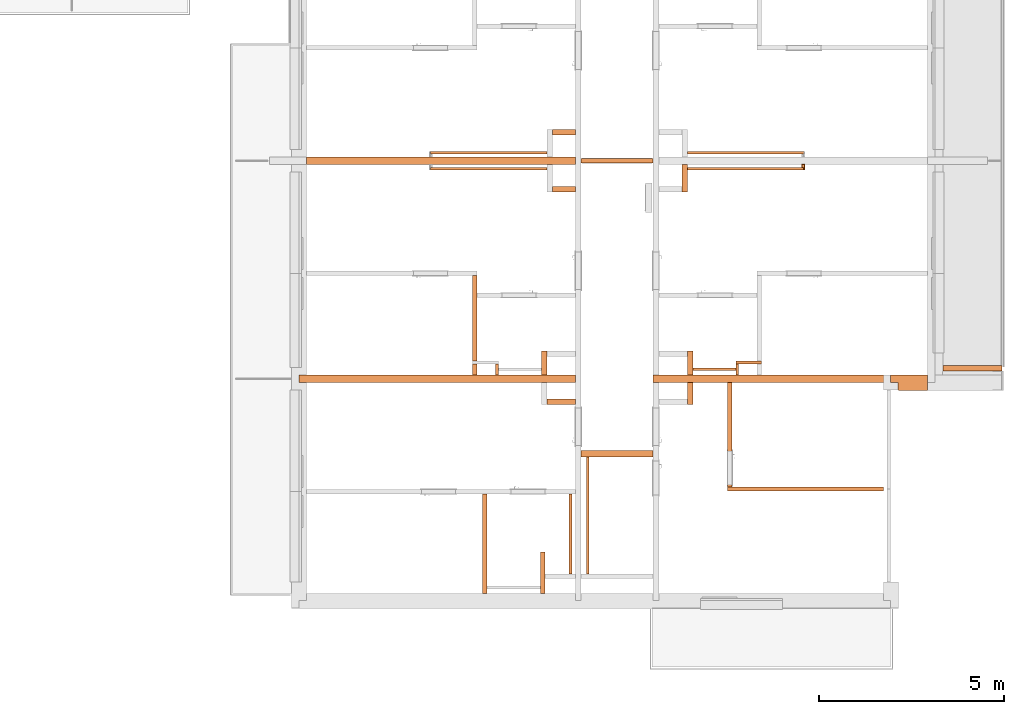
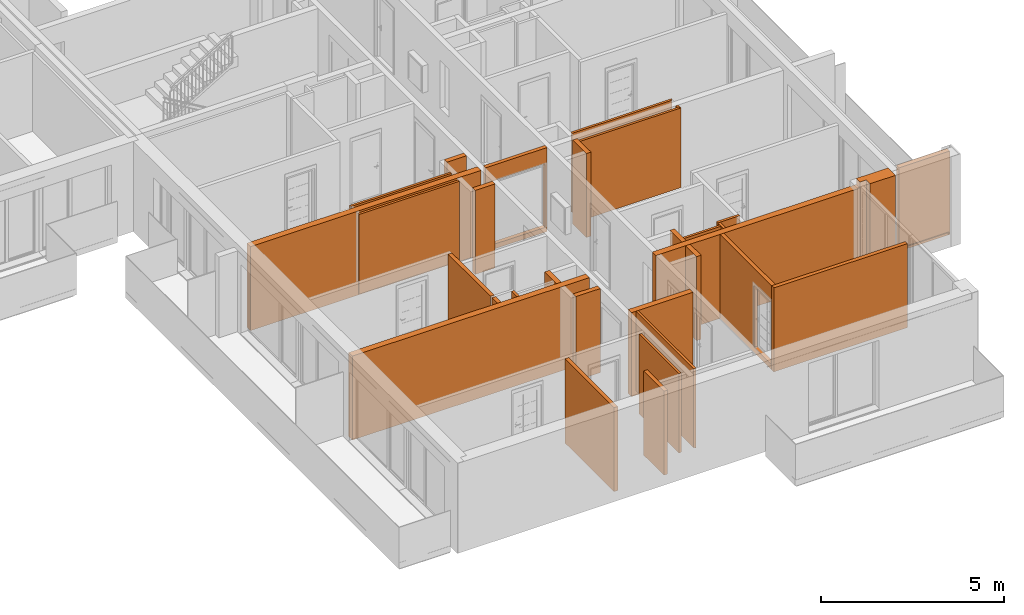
# One storey, part 64 of 66: 30 proxies, 2 openings.
"""IFC2X3 building model written with IfcOpenShell, lengths in millimetres."""

from ifc_helpers import new_model, entity, si_unit, converted_unit, derived_unit, money_unit, direction, frame, origin_with_axes, origin_2d_with_axis, place, context, subcontext, project, spatial, rectangle, extrude, faceted_brep, material, material_list, type_object, element, save


model = new_model("IFC2X3")

# Units and contexts
model_context = context("Model", 3, precision=0.01, world=origin_with_axes(), true_north=direction((0.34421633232, 0.938890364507)))
body_context = subcontext(model_context, "Body", "Model", "MODEL_VIEW")
ifc_project = project(units=[si_unit("LENGTHUNIT", "METRE", prefix="MILLI"), si_unit("AREAUNIT", "SQUARE_METRE"), si_unit("VOLUMEUNIT", "CUBIC_METRE"), converted_unit("PLANEANGLEUNIT", "DEGREE", entity("IfcPlaneAngleMeasure", 0.0174532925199), si_unit("PLANEANGLEUNIT", "RADIAN"), dimensions=[0, 0, 0, 0, 0, 0, 0]), si_unit("SOLIDANGLEUNIT", "STERADIAN"), money_unit("USD"), converted_unit("TIMEUNIT", "Year", entity("IfcTimeMeasure", 31556926.0), si_unit("TIMEUNIT", "SECOND"), dimensions=[0, 0, 1, 0, 0, 0, 0]), si_unit("MASSUNIT", "GRAM", prefix="KILO"), si_unit("THERMODYNAMICTEMPERATUREUNIT", "DEGREE_CELSIUS"), si_unit("LUMINOUSINTENSITYUNIT", "LUMEN"), si_unit("ENERGYUNIT", "JOULE", prefix="MEGA"), derived_unit("THERMALCONDUCTANCEUNIT", [(si_unit("POWERUNIT", "WATT"), 1), (si_unit("LENGTHUNIT", "METRE"), -1), (si_unit("THERMODYNAMICTEMPERATUREUNIT", "KELVIN"), -1)]), derived_unit("SPECIFICHEATCAPACITYUNIT", [(si_unit("ENERGYUNIT", "JOULE"), 1), (si_unit("MASSUNIT", "GRAM", prefix="KILO"), -1), (si_unit("THERMODYNAMICTEMPERATUREUNIT", "KELVIN"), -1)]), derived_unit("MASSDENSITYUNIT", [(si_unit("MASSUNIT", "GRAM", prefix="KILO"), 1), (si_unit("VOLUMEUNIT", "CUBIC_METRE"), -1)])], contexts=[model_context])

# Site, building, storey
site_placement = place(None, origin_with_axes())
site = spatial("IfcSite", under=ifc_project, at=site_placement, Name="USTRONIE MORSKIE", CompositionType="ELEMENT")
building_placement = place(site_placement, origin_with_axes())
building = spatial("IfcBuilding", under=site, at=building_placement, Name="Budynek", CompositionType="ELEMENT")
storey_placement = place(building_placement, frame((0.0, 0.0, 10000.0), z_axis=(0.0, 0.0, 1.0), x_axis=(1.0, 0.0, 0.0)))
storey = spatial("IfcBuildingStorey", under=building, at=storey_placement, Name="PIĘTRO 3", CompositionType="ELEMENT", Elevation=10000.0)

# Proxy
ifc_material_1 = material(Name="Bloczki silikatowe")
building_element_proxy_type_1 = type_object("IfcBuildingElementProxyType", Name="Bloczki silikatowe 120", PredefinedType="NOTDEFINED")
proxy_1_placement = place(storey_placement, frame((413217.920919, 715101.199036, -160.0), z_axis=(0.0, 0.0, 1.0), x_axis=(0.0, 1.0, 0.0)))
element("IfcBuildingElementProxy", 1, at=proxy_1_placement, inside=storey, type_object=building_element_proxy_type_1, material=ifc_material_1, Name="SW-04", context=body_context, shape_type="Brep", body=[
    faceted_brep([(2790.01935038, 60.0, 0.0), (2790.01935038, -60.0, 0.0), (480.01915523, -60.0, 0.0), (480.01915523, 60.0, 0.0), (2790.01935038, 60.0, 2800.0), (2790.01935038, -60.0, 2800.0), (480.01915523, -60.0, 2800.0), (480.01915523, 60.0, 2800.0)], [[[0, 1, 2, 3]], [[1, 0, 4, 5]], [[1, 5, 6, 2]], [[7, 3, 2, 6]], [[4, 0, 3, 7]], [[5, 4, 7, 6]]]),
    faceted_brep([(400.01915523, 60.0, 0.0), (400.01915523, -60.0, 0.0), (99.9999880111, -60.0, 0.0), (99.9999874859, 60.0, 0.0), (400.01915523, 60.0, 2800.0), (400.01915523, -60.0, 2800.0), (99.9999880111, -60.0, 2800.0), (99.9999874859, 60.0, 2800.0)], [[[0, 1, 2, 3]], [[1, 0, 4, 5]], [[1, 5, 6, 2]], [[7, 3, 2, 6]], [[4, 0, 3, 7]], [[5, 4, 7, 6]]]),
])

# Proxy, opening
proxy_2_placement = place(storey_placement, frame((416017.920919, 721001.199036, -160.0), z_axis=(0.0, 0.0, 1.0), x_axis=(1.0, 0.0, 0.0)))
proxy_2 = element("IfcBuildingElementProxy", 2, at=proxy_2_placement, inside=storey, type_object=building_element_proxy_type_1, material=ifc_material_1, Name="SW-04", context=body_context, shape_type="Brep", body=[
    faceted_brep([(2020.0, 59.9999999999, 0.0), (80.0, 59.9999999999, 0.0), (80.0, 59.9999999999, 2800.0), (2020.0, 59.9999999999, 2800.0), (2020.0, -59.9999999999, 0.0), (80.0, -59.9999999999, 0.0), (80.0, -59.9999999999, 2800.0), (2020.0, -59.9999999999, 2800.0)], [[[0, 1, 2, 3]], [[4, 5, 1, 0]], [[5, 6, 2, 1]], [[3, 2, 6, 7]], [[3, 7, 4, 0]], [[7, 6, 5, 4]]]),
])
opening_1_placement = place(proxy_2_placement, frame((1050.0, 0.0, 160.0), z_axis=(0.0, 0.0, 1.0), x_axis=(1.0, 0.0, 0.0)))
element("IfcOpeningElement", 3, at=opening_1_placement, cuts=proxy_2, Name="Dw.5s", context=body_context, shape_type="SweptSolid", body=[
    extrude(rectangle(XDim=1820.0, YDim=2120.0, at=origin_2d_with_axis()), frame((0.0, -120.0, 1060.0), z_axis=(0.0, 1.0, 0.0), x_axis=(1.0, 0.0, 0.0)), (0.0, 0.0, 1.0), 360.0),
    extrude(rectangle(XDim=1894.0, YDim=2157.0, at=origin_2d_with_axis()), frame((0.0, -59.9999999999, 1078.5), z_axis=(0.0, 1.0, 0.0), x_axis=(1.0, 0.0, 0.0)), (0.0, 0.0, -1.0), 120.0),
    extrude(rectangle(XDim=1894.0, YDim=2157.0, at=origin_2d_with_axis()), frame((0.0, 60.0000000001, 1078.5), z_axis=(0.0, -1.0, 0.0), x_axis=(1.0, 0.0, 0.0)), (0.0, 0.0, -1.0), 120.0),
])

proxy_3_placement = place(storey_placement, frame((420117.920919, 712121.199036, -160.0), z_axis=(0.0, 0.0, 1.0), x_axis=(0.0, 1.0, 0.0)))
proxy_3 = element("IfcBuildingElementProxy", 4, at=proxy_3_placement, inside=storey, type_object=building_element_proxy_type_1, material=ifc_material_1, Name="SW-04", context=body_context, shape_type="Brep", body=[
    faceted_brep([(2880.0, -60.0, 2800.0), (2880.0, 60.0, 2800.0), (59.9999999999, 60.0, 2800.0), (59.9999999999, -60.0, 2800.0), (2880.0, -60.0, 0.0), (2880.0, 60.0, 0.0), (59.9999999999, 60.0, 0.0), (59.9999999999, -60.0, 0.0)], [[[0, 1, 2, 3]], [[1, 0, 4, 5]], [[1, 5, 6, 2]], [[7, 3, 2, 6]], [[4, 0, 3, 7]], [[5, 4, 7, 6]]]),
])
opening_2_placement = place(proxy_3_placement, frame((570.0, 0.0, 160.0), z_axis=(0.0, 0.0, 1.0), x_axis=(1.0, 0.0, 0.0)))
element("IfcOpeningElement", 5, at=opening_2_placement, cuts=proxy_3, Name="Dw.3", context=body_context, shape_type="SweptSolid", body=[
    extrude(rectangle(XDim=920.0, YDim=2070.0, at=origin_2d_with_axis()), frame((0.0, 120.0, 1035.0), z_axis=(0.0, -1.0, 0.0), x_axis=(-1.0, 0.0, 0.0)), (0.0, 0.0, 1.0), 360.0),
    extrude(rectangle(XDim=994.0, YDim=2177.0, at=origin_2d_with_axis()), frame((0.0, 60.0, 1088.5), z_axis=(0.0, -1.0, 0.0), x_axis=(-1.0, 0.0, 0.0)), (0.0, 0.0, -1.0), 120.0),
    extrude(rectangle(XDim=994.0, YDim=2177.0, at=origin_2d_with_axis()), frame((0.0, -60.0, 1088.5), z_axis=(0.0, 1.0, 0.0), x_axis=(-1.0, 0.0, 0.0)), (0.0, 0.0, -1.0), 120.0),
])

# Proxies
proxy_4_placement = place(storey_placement, frame((424367.920919, 712121.199036, -160.0), z_axis=(0.0, 0.0, 1.0), x_axis=(-1.0, 0.0, 0.0)))
element("IfcBuildingElementProxy", 6, at=proxy_4_placement, inside=storey, type_object=building_element_proxy_type_1, material=ifc_material_1, Name="SW-04", context=body_context, shape_type="Brep", body=[
    faceted_brep([(4310.0, -59.9999999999, 2800.0), (4310.0, 59.9999999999, 2800.0), (100.0, 59.9999999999, 2800.0), (100.0, -59.9999999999, 2800.0), (4310.0, -59.9999999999, 0.0), (4310.0, 59.9999999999, 0.0), (100.0, 59.9999999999, 0.0), (100.0, -59.9999999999, 0.0)], [[[0, 1, 2, 3]], [[1, 0, 4, 5]], [[1, 5, 6, 2]], [[7, 3, 2, 6]], [[4, 0, 3, 7]], [[5, 4, 7, 6]]]),
])
proxy_5_placement = place(storey_placement, frame((415117.920919, 710416.199036, -160.0), z_axis=(0.0, 0.0, 1.0), x_axis=(0.0, -1.0, 0.0)))
element("IfcBuildingElementProxy", 7, at=proxy_5_placement, inside=storey, type_object=building_element_proxy_type_1, material=ifc_material_1, Name="SW-04", context=body_context, shape_type="Brep", body=[
    faceted_brep([(1115.0, -120.0, 2800.0), (1115.0, 0.0, 2800.0), (0.0, 0.0, 2800.0), (0.0, -120.0, 2800.0), (1115.0, -120.0, 0.0), (1115.0, 0.0, 0.0), (0.0, 0.0, 0.0), (0.0, -120.0, 0.0)], [[[0, 1, 2, 3]], [[1, 0, 4, 5]], [[1, 5, 6, 2]], [[7, 3, 2, 6]], [[4, 0, 3, 7]], [[5, 4, 7, 6]]]),
])
proxy_6_placement = place(storey_placement, frame((413487.920919, 709201.199036, -160.0), z_axis=(0.0, 0.0, 1.0), x_axis=(0.0, 1.0, 0.0)))
element("IfcBuildingElementProxy", 8, at=proxy_6_placement, inside=storey, type_object=building_element_proxy_type_1, material=ifc_material_1, Name="SW-04", context=body_context, shape_type="Brep", body=[
    faceted_brep([(2790.01936646, 60.0, 0.0), (2790.01936646, -60.0, 0.0), (100.0, -60.0, 0.0), (100.0, 60.0, 0.0), (2790.01936646, 60.0, 2800.0), (2790.01936646, -60.0, 2800.0), (100.0, -60.0, 2800.0), (100.0, 60.0, 2800.0)], [[[0, 1, 2, 3]], [[1, 0, 4, 5]], [[1, 5, 6, 2]], [[7, 3, 2, 6]], [[4, 0, 3, 7]], [[5, 4, 7, 6]]]),
])
ifc_material_2 = material(Name="Beton konstrukcyjny B25")
ifc_material_3 = material(Name="Wełna ELEW")
ifc_material_4 = material(Name="Tynk zewnętrzny")
ifc_material_list_1 = material_list([ifc_material_2, ifc_material_3, ifc_material_4])
building_element_proxy_type_2 = type_object("IfcBuildingElementProxyType", Name="20+20 410", PredefinedType="NOTDEFINED")
proxy_7_placement = place(storey_placement, frame((424367.920919, 715101.199036, -160.0), z_axis=(0.0, 0.0, 1.0), x_axis=(1.0, 0.0, 0.0)))
element("IfcBuildingElementProxy", 9, at=proxy_7_placement, inside=storey, type_object=building_element_proxy_type_2, material=ifc_material_list_1, Name="SZ-01", context=body_context, shape_type="Brep", body=[
    faceted_brep([(100.0, 100.0, 0.0), (100.0, 100.0, 2800.0), (100.0, 100.0, 3000.0), (1100.0, 99.9999999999, 3000.0), (1100.0, 99.9999999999, 0.0), (100.0, -100.0, 2800.0), (100.0, -100.0, 0.0), (100.0, -100.0, 3000.0), (1100.0, -100.0, 3000.0), (1100.0, -100.0, 0.0)], [[[0, 1, 2, 3, 4]], [[5, 1, 0, 6]], [[1, 5, 7, 2]], [[2, 7, 8, 3]], [[4, 3, 8, 9]], [[6, 0, 4, 9]], [[5, 6, 9, 8, 7]]]),
    faceted_brep([(300.0, -100.0, 0.0), (300.0, -100.0, 2800.0), (300.0, -100.0, 3000.0), (1100.0, -100.0, 3000.0), (1100.0, -100.0, 0.0), (300.0, -300.0, 2800.0), (300.0, -300.0, 0.0), (300.0, -300.0, 3000.0), (1100.0, -300.0, 3000.0), (1100.0, -300.0, 0.0)], [[[0, 1, 2, 3, 4]], [[5, 1, 0, 6]], [[1, 5, 7, 2]], [[2, 7, 8, 3]], [[4, 3, 8, 9]], [[6, 0, 4, 9]], [[5, 6, 9, 8, 7]]]),
    faceted_brep([(310.0, -300.0, 0.0), (310.0, -300.0, 2800.0), (310.0, -300.0, 3000.0), (1100.0, -300.0, 3000.0), (1100.0, -300.0, 0.0), (310.0, -310.0, 2800.0), (310.0, -310.0, 0.0), (310.0, -310.0, 3000.0), (1100.0, -310.0, 3000.0), (1100.0, -310.0, 0.0)], [[[0, 1, 2, 3, 4]], [[5, 1, 0, 6]], [[1, 5, 7, 2]], [[2, 7, 8, 3]], [[4, 3, 8, 9]], [[6, 0, 4, 9]], [[5, 6, 9, 8, 7]]]),
])
building_element_proxy_type_3 = type_object("IfcBuildingElementProxyType", Name="Bloczki silikatowe 180", PredefinedType="NOTDEFINED")
proxy_8_placement = place(storey_placement, frame((416017.920919, 713071.199036, -160.0), z_axis=(0.0, 0.0, 1.0), x_axis=(1.0, 0.0, 0.0)))
element("IfcBuildingElementProxy", 10, at=proxy_8_placement, inside=storey, type_object=building_element_proxy_type_3, material=ifc_material_1, Name="SW-02", context=body_context, shape_type="Brep", body=[
    faceted_brep([(2020.0, -90.0, 2800.0), (2020.0, 90.0, 2800.0), (80.0, 90.0, 2800.0), (80.0, -90.0, 2800.0), (2020.0, -90.0, 0.0), (2020.0, 90.0, 0.0), (80.0, 90.0, 0.0), (80.0, -90.0, 0.0)], [[[0, 1, 2, 3]], [[1, 0, 4, 5]], [[1, 5, 6, 2]], [[7, 3, 2, 6]], [[4, 0, 3, 7]], [[5, 4, 7, 6]]]),
])
ifc_material_5 = material(Name="-Pustka powietrzna")
ifc_material_6 = material(Name="Płyta GK")
ifc_material_list_2 = material_list([ifc_material_5, ifc_material_6, ifc_material_6])
building_element_proxy_type_4 = type_object("IfcBuildingElementProxyType", Name="330-SD GK 2-warstwy 75", PredefinedType="NOTDEFINED")
proxy_9_placement = place(storey_placement, frame((418817.920919, 720771.199036, -180.0), z_axis=(0.0, 0.0, 1.0), x_axis=(1.0, 0.0, 0.0)))
element("IfcBuildingElementProxy", 11, at=proxy_9_placement, inside=storey, type_object=building_element_proxy_type_4, material=ifc_material_list_2, Name="Ściana-009", context=body_context, shape_type="Brep", body=[
    faceted_brep([(3300.0, 0.0, 180.0), (3300.0, 50.0, 180.0), (3300.0, 50.0, 2820.0), (3300.0, 0.0, 2820.0), (150.0, 50.0, 180.0), (150.0, 0.0, 180.0), (150.0, 50.0, 2820.0), (150.0, 0.0, 2820.0)], [[[0, 1, 2, 3]], [[4, 1, 0, 5]], [[1, 4, 6, 2]], [[2, 6, 7, 3]], [[5, 0, 3, 7]], [[4, 5, 7, 6]]]),
    faceted_brep([(3312.5, -12.5, 165.0), (3312.5, 0.0, 165.0), (3312.5, 0.0, 2820.0), (3312.5, -12.5, 2820.0), (150.0, 0.0, 165.0), (150.0, -12.5, 165.0), (150.0, 0.0, 2820.0), (150.0, -12.5, 2820.0)], [[[0, 1, 2, 3]], [[4, 1, 0, 5]], [[1, 4, 6, 2]], [[2, 6, 7, 3]], [[5, 0, 3, 7]], [[4, 5, 7, 6]]]),
    faceted_brep([(3325.0, -25.0, 165.0), (3325.0, -12.5, 165.0), (3325.0, -12.5, 2820.0), (3325.0, -25.0, 2820.0), (150.0, -12.5, 165.0), (150.0, -25.0, 165.0), (150.0, -12.5, 2820.0), (150.0, -25.0, 2820.0)], [[[0, 1, 2, 3]], [[4, 1, 0, 5]], [[1, 4, 6, 2]], [[2, 6, 7, 3]], [[5, 0, 3, 7]], [[4, 5, 7, 6]]]),
])
ifc_material_list_3 = material_list([ifc_material_6, ifc_material_6, ifc_material_5])
proxy_10_placement = place(storey_placement, frame((415317.920919, 720771.199036, -180.0), z_axis=(0.0, 0.0, 1.0), x_axis=(-1.0, 0.0, 0.0)))
element("IfcBuildingElementProxy", 12, at=proxy_10_placement, inside=storey, type_object=building_element_proxy_type_4, material=ifc_material_list_3, Name="Ściana-009", context=body_context, shape_type="Brep", body=[
    faceted_brep([(150.0, 25.0, 165.0), (150.0, 12.5, 165.0), (150.0, 12.5, 2820.0), (150.0, 25.0, 2820.0), (3325.0, 12.5, 165.0), (3325.0, 25.0, 165.0), (3325.0, 12.5, 2820.0), (3325.0, 25.0, 2820.0)], [[[0, 1, 2, 3]], [[4, 1, 0, 5]], [[1, 4, 6, 2]], [[7, 3, 2, 6]], [[5, 0, 3, 7]], [[4, 5, 7, 6]]]),
    faceted_brep([(150.0, 12.5, 165.0), (150.0, 0.0, 165.0), (150.0, 0.0, 2820.0), (150.0, 12.5, 2820.0), (3312.5, 0.0, 165.0), (3312.5, 12.5, 165.0), (3312.5, 0.0, 2820.0), (3312.5, 12.5, 2820.0)], [[[0, 1, 2, 3]], [[4, 1, 0, 5]], [[1, 4, 6, 2]], [[7, 3, 2, 6]], [[5, 0, 3, 7]], [[4, 5, 7, 6]]]),
    faceted_brep([(150.0, 0.0, 180.0), (150.0, -50.0, 180.0), (150.0, -50.0, 2820.0), (150.0, 0.0, 2820.0), (3300.0, -50.0, 180.0), (3300.0, 0.0, 180.0), (3300.0, -50.0, 2820.0), (3300.0, 0.0, 2820.0)], [[[0, 1, 2, 3]], [[4, 1, 0, 5]], [[1, 4, 6, 2]], [[7, 3, 2, 6]], [[5, 0, 3, 7]], [[4, 5, 7, 6]]]),
])
proxy_11_placement = place(storey_placement, frame((420317.920919, 715371.200737, -180.0), z_axis=(0.0, 0.0, 1.0), x_axis=(-1.0, 0.0, 0.0)))
element("IfcBuildingElementProxy", 13, at=proxy_11_placement, inside=storey, type_object=building_element_proxy_type_4, material=ifc_material_list_2, Name="Ściana-009", context=body_context, shape_type="Brep", body=[
    faceted_brep([(40.0, 50.0, 180.0), (40.0, 0.0, 180.0), (40.0, 0.0, 2820.0), (40.0, 50.0, 2820.0), (1199.99909883, 0.0, 180.0), (1199.99909883, 50.0, 180.0), (1199.99909883, 0.0, 2820.0), (1199.99909883, 50.0, 2820.0)], [[[0, 1, 2, 3]], [[4, 1, 0, 5]], [[1, 4, 6, 2]], [[2, 6, 7, 3]], [[5, 0, 3, 7]], [[4, 5, 7, 6]]]),
    faceted_brep([(40.0, 0.0, 165.0), (40.0, -12.5, 165.0), (40.0, -12.5, 2820.0), (40.0, 0.0, 2820.0), (1199.99909883, -12.5, 165.0), (1199.99909883, 0.0, 165.0), (1199.99909883, -12.5, 2820.0), (1199.99909883, 0.0, 2820.0)], [[[0, 1, 2, 3]], [[4, 1, 0, 5]], [[1, 4, 6, 2]], [[2, 6, 7, 3]], [[5, 0, 3, 7]], [[4, 5, 7, 6]]]),
    faceted_brep([(40.0, -12.5, 165.0), (40.0, -25.0, 165.0), (40.0, -25.0, 2820.0), (40.0, -12.5, 2820.0), (1199.99909883, -25.0, 165.0), (1199.99909883, -12.5, 165.0), (1199.99909883, -25.0, 2820.0), (1199.99909883, -12.5, 2820.0)], [[[0, 1, 2, 3]], [[4, 1, 0, 5]], [[1, 4, 6, 2]], [[2, 6, 7, 3]], [[5, 0, 3, 7]], [[4, 5, 7, 6]]]),
])
proxy_12_placement = place(storey_placement, frame((416262.920919, 713071.199036, -160.0), z_axis=(0.0, 0.0, 1.0), x_axis=(0.0, -1.0, 0.0)))
element("IfcBuildingElementProxy", 14, at=proxy_12_placement, inside=storey, type_object=building_element_proxy_type_4, material=ifc_material_list_3, Name="Ściana-009", context=body_context, shape_type="Brep", body=[
    faceted_brep([(3249.99999956, 50.0, 145.0), (90.0, 50.0, 145.0), (90.0, 50.0, 2800.0), (3249.99999956, 50.0, 2800.0), (90.0, 37.5, 145.0), (3249.99999956, 37.5, 145.0), (90.0, 37.5, 2800.0), (3249.99999956, 37.5, 2800.0)], [[[0, 1, 2, 3]], [[4, 1, 0, 5]], [[1, 4, 6, 2]], [[7, 3, 2, 6]], [[5, 0, 3, 7]], [[4, 5, 7, 6]]]),
    faceted_brep([(3249.99999956, 37.5, 145.0), (90.0, 37.5, 145.0), (90.0, 37.5, 2800.0), (3249.99999956, 37.5, 2800.0), (90.0, 25.0, 145.0), (3249.99999956, 25.0, 145.0), (90.0, 25.0, 2800.0), (3249.99999956, 25.0, 2800.0)], [[[0, 1, 2, 3]], [[4, 1, 0, 5]], [[1, 4, 6, 2]], [[7, 3, 2, 6]], [[5, 0, 3, 7]], [[4, 5, 7, 6]]]),
    faceted_brep([(3249.99999956, 25.0, 160.0), (90.0, 25.0, 160.0), (90.0, 25.0, 2800.0), (3249.99999956, 25.0, 2800.0), (90.0, -25.0, 160.0), (3249.99999956, -25.0, 160.0), (90.0, -25.0, 2800.0), (3249.99999956, -25.0, 2800.0)], [[[0, 1, 2, 3]], [[4, 1, 0, 5]], [[1, 4, 6, 2]], [[7, 3, 2, 6]], [[5, 0, 3, 7]], [[4, 5, 7, 6]]]),
])
proxy_13_placement = place(storey_placement, frame((415822.920919, 712051.218403, -160.0), z_axis=(0.0, 0.0, 1.0), x_axis=(0.0, -1.0, 0.0)))
element("IfcBuildingElementProxy", 15, at=proxy_13_placement, inside=storey, type_object=building_element_proxy_type_4, material=ifc_material_list_2, Name="Ściana-009", context=body_context, shape_type="Brep", body=[
    faceted_brep([(2230.01936646, 25.0, 160.0), (59.9999999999, 25.0, 160.0), (59.9999999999, 25.0, 2800.0), (2230.01936646, 25.0, 2800.0), (59.9999999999, -25.0, 160.0), (2230.01936646, -25.0, 160.0), (59.9999999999, -25.0, 2800.0), (2230.01936646, -25.0, 2800.0)], [[[0, 1, 2, 3]], [[4, 1, 0, 5]], [[1, 4, 6, 2]], [[7, 3, 2, 6]], [[5, 0, 3, 7]], [[4, 5, 7, 6]]]),
    faceted_brep([(2230.01936646, -25.0, 145.0), (59.9999999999, -25.0, 145.0), (59.9999999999, -25.0, 2800.0), (2230.01936646, -25.0, 2800.0), (59.9999999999, -37.5, 145.0), (2230.01936646, -37.5, 145.0), (59.9999999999, -37.5, 2800.0), (2230.01936646, -37.5, 2800.0)], [[[0, 1, 2, 3]], [[4, 1, 0, 5]], [[1, 4, 6, 2]], [[7, 3, 2, 6]], [[5, 0, 3, 7]], [[4, 5, 7, 6]]]),
    faceted_brep([(2230.01936646, -37.5, 145.0), (59.9999999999, -37.5, 145.0), (59.9999999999, -37.5, 2800.0), (2230.01936646, -37.5, 2800.0), (59.9999999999, -50.0, 145.0), (2230.01936646, -50.0, 145.0), (59.9999999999, -50.0, 2800.0), (2230.01936646, -50.0, 2800.0)], [[[0, 1, 2, 3]], [[4, 1, 0, 5]], [[1, 4, 6, 2]], [[7, 3, 2, 6]], [[5, 0, 3, 7]], [[4, 5, 7, 6]]]),
])
proxy_14_placement = place(storey_placement, frame((418817.920919, 721231.199036, -180.0), z_axis=(0.0, 0.0, 1.0), x_axis=(1.0, 0.0, 0.0)))
element("IfcBuildingElementProxy", 16, at=proxy_14_placement, inside=storey, type_object=building_element_proxy_type_4, material=ifc_material_list_3, Name="Ściana-009", context=body_context, shape_type="Brep", body=[
    faceted_brep([(3325.0, 12.5, 165.0), (3325.0, 25.0, 165.0), (3325.0, 25.0, 2820.0), (3325.0, 12.5, 2820.0), (150.0, 25.0, 165.0), (150.0, 12.5, 165.0), (150.0, 25.0, 2820.0), (150.0, 12.5, 2820.0)], [[[0, 1, 2, 3]], [[4, 1, 0, 5]], [[1, 4, 6, 2]], [[2, 6, 7, 3]], [[5, 0, 3, 7]], [[4, 5, 7, 6]]]),
    faceted_brep([(3312.5, 0.0, 165.0), (3312.5, 12.5, 165.0), (3312.5, 12.5, 2820.0), (3312.5, 0.0, 2820.0), (150.0, 12.5, 165.0), (150.0, 0.0, 165.0), (150.0, 12.5, 2820.0), (150.0, 0.0, 2820.0)], [[[0, 1, 2, 3]], [[4, 1, 0, 5]], [[1, 4, 6, 2]], [[2, 6, 7, 3]], [[5, 0, 3, 7]], [[4, 5, 7, 6]]]),
    faceted_brep([(3300.0, -50.0, 180.0), (3300.0, 0.0, 180.0), (3300.0, 0.0, 2820.0), (3300.0, -50.0, 2820.0), (150.0, 0.0, 180.0), (150.0, -50.0, 180.0), (150.0, 0.0, 2820.0), (150.0, -50.0, 2820.0)], [[[0, 1, 2, 3]], [[4, 1, 0, 5]], [[1, 4, 6, 2]], [[2, 6, 7, 3]], [[5, 0, 3, 7]], [[4, 5, 7, 6]]]),
])
proxy_15_placement = place(storey_placement, frame((422117.920919, 721001.199036, -180.0), z_axis=(0.0, 0.0, 1.0), x_axis=(0.0, -1.0, 0.0)))
element("IfcBuildingElementProxy", 17, at=proxy_15_placement, inside=storey, type_object=building_element_proxy_type_4, material=ifc_material_list_3, Name="Ściana-009", context=body_context, shape_type="Brep", body=[
    faceted_brep([(242.5, 25.0, 165.0), (100.0, 25.0, 165.0), (100.0, 25.0, 2820.0), (242.5, 25.0, 2820.0), (100.0, 12.5, 165.0), (242.5, 12.5, 165.0), (100.0, 12.5, 2820.0), (242.5, 12.5, 2820.0)], [[[0, 1, 2, 3]], [[4, 1, 0, 5]], [[1, 4, 6, 2]], [[3, 2, 6, 7]], [[5, 0, 3, 7]], [[4, 5, 7, 6]]]),
    faceted_brep([(230.0, 12.5, 165.0), (100.0, 12.5, 165.0), (100.0, 12.5, 2820.0), (230.0, 12.5, 2820.0), (100.0, 0.0, 165.0), (230.0, 0.0, 165.0), (100.0, 0.0, 2820.0), (230.0, 0.0, 2820.0)], [[[0, 1, 2, 3]], [[4, 1, 0, 5]], [[1, 4, 6, 2]], [[3, 2, 6, 7]], [[5, 0, 3, 7]], [[4, 5, 7, 6]]]),
    faceted_brep([(180.0, 0.0, 180.0), (100.0, 0.0, 180.0), (100.0, 0.0, 2820.0), (180.0, 0.0, 2820.0), (100.0, -50.0, 180.0), (180.0, -50.0, 180.0), (100.0, -50.0, 2820.0), (180.0, -50.0, 2820.0)], [[[0, 1, 2, 3]], [[4, 1, 0, 5]], [[1, 4, 6, 2]], [[3, 2, 6, 7]], [[5, 0, 3, 7]], [[4, 5, 7, 6]]]),
])
proxy_16_placement = place(storey_placement, frame((415317.920919, 721231.199036, -180.0), z_axis=(0.0, 0.0, 1.0), x_axis=(-1.0, 0.0, 0.0)))
element("IfcBuildingElementProxy", 18, at=proxy_16_placement, inside=storey, type_object=building_element_proxy_type_4, material=ifc_material_list_2, Name="Ściana-009", context=body_context, shape_type="Brep", body=[
    faceted_brep([(150.0, 50.0, 180.0), (150.0, 0.0, 180.0), (150.0, 0.0, 2820.0), (150.0, 50.0, 2820.0), (3300.0, 0.0, 180.0), (3300.0, 50.0, 180.0), (3300.0, 0.0, 2820.0), (3300.0, 50.0, 2820.0)], [[[0, 1, 2, 3]], [[4, 1, 0, 5]], [[1, 4, 6, 2]], [[7, 3, 2, 6]], [[5, 0, 3, 7]], [[4, 5, 7, 6]]]),
    faceted_brep([(150.0, 0.0, 165.0), (150.0, -12.5, 165.0), (150.0, -12.5, 2820.0), (150.0, 0.0, 2820.0), (3312.5, -12.5, 165.0), (3312.5, 0.0, 165.0), (3312.5, -12.5, 2820.0), (3312.5, 0.0, 2820.0)], [[[0, 1, 2, 3]], [[4, 1, 0, 5]], [[1, 4, 6, 2]], [[7, 3, 2, 6]], [[5, 0, 3, 7]], [[4, 5, 7, 6]]]),
    faceted_brep([(150.0, -12.5, 165.0), (150.0, -25.0, 165.0), (150.0, -25.0, 2820.0), (150.0, -12.5, 2820.0), (3325.0, -25.0, 165.0), (3325.0, -12.5, 165.0), (3325.0, -25.0, 2820.0), (3325.0, -12.5, 2820.0)], [[[0, 1, 2, 3]], [[4, 1, 0, 5]], [[1, 4, 6, 2]], [[7, 3, 2, 6]], [[5, 0, 3, 7]], [[4, 5, 7, 6]]]),
])
building_element_proxy_type_5 = type_object("IfcBuildingElementProxyType", Name="Bloczki silikatowe 80", PredefinedType="NOTDEFINED")
proxy_17_placement = place(storey_placement, frame((413817.920919, 715101.199027, -160.0), z_axis=(0.0, 0.0, 1.0), x_axis=(0.0, 1.0, 0.0)))
element("IfcBuildingElementProxy", 19, at=proxy_17_placement, inside=storey, type_object=building_element_proxy_type_5, material=ifc_material_1, Name="Ściana-010", context=body_context, shape_type="Brep", body=[
    faceted_brep([(400.019164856, 40.0, 0.0), (400.019164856, -40.0, 0.0), (100.000000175, -40.0, 0.0), (99.9999998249, 40.0, 0.0), (400.019164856, 40.0, 2800.0), (400.019164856, -40.0, 2800.0), (100.000000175, -40.0, 2800.0), (99.9999998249, 40.0, 2800.0)], [[[0, 1, 2, 3]], [[1, 0, 4, 5]], [[1, 5, 6, 2]], [[7, 3, 2, 6]], [[4, 0, 3, 7]], [[5, 4, 7, 6]]]),
])
proxy_18_placement = place(storey_placement, frame((420317.920919, 715101.199036, -160.0), z_axis=(0.0, 0.0, 1.0), x_axis=(0.0, 1.0, 0.0)))
element("IfcBuildingElementProxy", 20, at=proxy_18_placement, inside=storey, type_object=building_element_proxy_type_5, material=ifc_material_1, Name="Ściana-010", context=body_context, shape_type="Brep", body=[
    faceted_brep([(400.01915523, -40.0, 2800.0), (400.01915523, 40.0, 2800.0), (100.0, 40.0, 2800.0), (100.0, -40.0, 2800.0), (400.01915523, -40.0, 0.0), (400.01915523, 40.0, 0.0), (100.0, 40.0, 0.0), (100.0, -40.0, 0.0)], [[[0, 1, 2, 3]], [[1, 0, 4, 5]], [[1, 5, 6, 2]], [[7, 3, 2, 6]], [[4, 0, 3, 7]], [[5, 4, 7, 6]]]),
])
proxy_19_placement = place(storey_placement, frame((420917.920919, 715541.218191, -160.0), z_axis=(0.0, 0.0, 1.0), x_axis=(-1.0, 0.0, 0.0)))
element("IfcBuildingElementProxy", 21, at=proxy_19_placement, inside=storey, type_object=building_element_proxy_type_5, material=ifc_material_1, Name="Ściana-009", context=body_context, shape_type="Brep", body=[
    faceted_brep([(640.0, -40.0, 2800.0), (640.0, 40.0, 2800.0), (-60.0, 40.0, 2800.0), (-60.0, -40.0, 2800.0), (640.0, -40.0, 0.0), (640.0, 40.0, 0.0), (-60.0, 40.0, 0.0), (-60.0, -40.0, 0.0)], [[[0, 1, 2, 3]], [[1, 0, 4, 5]], [[1, 5, 6, 2]], [[7, 3, 2, 6]], [[4, 0, 3, 7]], [[5, 4, 7, 6]]]),
])
building_element_proxy_type_6 = type_object("IfcBuildingElementProxyType", Name="Bloczki silikatowe 150", PredefinedType="NOTDEFINED")
proxy_20_placement = place(storey_placement, frame((415092.920018, 715101.199036, -160.0), z_axis=(0.0, 0.0, 1.0), x_axis=(0.0, 1.0, 0.0)))
element("IfcBuildingElementProxy", 22, at=proxy_20_placement, inside=storey, type_object=building_element_proxy_type_6, material=ifc_material_1, Name="SW-03", context=body_context, shape_type="Brep", body=[
    faceted_brep([(750.001977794, 75.0, 2800.0), (99.9999674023, 75.0, 2800.0), (99.9999674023, -75.0, 2800.0), (750.001977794, -75.0, 2800.0), (750.001977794, 75.0, 0.0), (99.9999674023, 75.0, 0.0), (99.9999674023, -75.0, 0.0), (750.001977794, -75.0, 0.0)], [[[0, 1, 2, 3]], [[4, 5, 1, 0]], [[5, 6, 2, 1]], [[3, 2, 6, 7]], [[0, 3, 7, 4]], [[7, 6, 5, 4]]]),
])
proxy_21_placement = place(storey_placement, frame((419042.92182, 715101.199036, -160.0), z_axis=(0.0, 0.0, 1.0), x_axis=(0.0, -1.0, 0.0)))
element("IfcBuildingElementProxy", 23, at=proxy_21_placement, inside=storey, type_object=building_element_proxy_type_6, material=ifc_material_1, Name="SW-03", context=body_context, shape_type="Brep", body=[
    faceted_brep([(700.0, 75.0, 0.0), (700.0, -75.0, 0.0), (100.0, -75.0, 0.0), (100.0, 75.0, 0.0), (700.0, 75.0, 2800.0), (700.0, -75.0, 2800.0), (100.0, -75.0, 2800.0), (100.0, 75.0, 2800.0)], [[[0, 1, 2, 3]], [[1, 0, 4, 5]], [[1, 5, 6, 2]], [[7, 3, 2, 6]], [[4, 0, 3, 7]], [[5, 4, 7, 6]]]),
])
proxy_22_placement = place(storey_placement, frame((415317.920919, 720301.199036, -160.0), z_axis=(0.0, 0.0, 1.0), x_axis=(1.0, 0.0, 0.0)))
element("IfcBuildingElementProxy", 24, at=proxy_22_placement, inside=storey, type_object=building_element_proxy_type_6, material=ifc_material_1, Name="SW-03", context=body_context, shape_type="Brep", body=[
    faceted_brep([(620.0, -150.0, 2800.0), (620.0, 0.0, 2800.0), (0.0, 0.0, 2800.0), (0.0, -150.0, 2800.0), (620.0, -150.0, 0.0), (620.0, 0.0, 0.0), (0.0, 0.0, 0.0), (0.0, -150.0, 0.0)], [[[0, 1, 2, 3]], [[1, 0, 4, 5]], [[1, 5, 6, 2]], [[7, 3, 2, 6]], [[4, 0, 3, 7]], [[5, 4, 7, 6]]]),
])
proxy_23_placement = place(storey_placement, frame((419042.92182, 715101.199036, -160.0), z_axis=(0.0, 0.0, 1.0), x_axis=(0.0, 1.0, 0.0)))
element("IfcBuildingElementProxy", 25, at=proxy_23_placement, inside=storey, type_object=building_element_proxy_type_6, material=ifc_material_1, Name="SW-03", context=body_context, shape_type="Brep", body=[
    faceted_brep([(750.001977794, 75.0, 2800.0), (100.0, 75.0, 2800.0), (100.0, -75.0, 2800.0), (750.001977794, -75.0, 2800.0), (750.001977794, 75.0, 0.0), (100.0, 75.0, 0.0), (100.0, -75.0, 0.0), (750.001977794, -75.0, 0.0)], [[[0, 1, 2, 3]], [[4, 5, 1, 0]], [[5, 6, 2, 1]], [[3, 2, 6, 7]], [[7, 4, 0, 3]], [[7, 6, 5, 4]]]),
])
proxy_24_placement = place(storey_placement, frame((415317.920919, 721701.199036, -160.0), z_axis=(0.0, 0.0, 1.0), x_axis=(1.0, 0.0, 0.0)))
element("IfcBuildingElementProxy", 26, at=proxy_24_placement, inside=storey, type_object=building_element_proxy_type_6, material=ifc_material_1, Name="SW-03", context=body_context, shape_type="Brep", body=[
    faceted_brep([(620.0, 150.0, 0.0), (620.0, 0.0, 0.0), (0.0, 0.0, 0.0), (0.0, 150.0, 0.0), (620.0, 150.0, 2800.0), (620.0, 0.0, 2800.0), (0.0, 0.0, 2800.0), (0.0, 150.0, 2800.0)], [[[0, 1, 2, 3]], [[1, 0, 4, 5]], [[1, 5, 6, 2]], [[7, 3, 2, 6]], [[4, 0, 3, 7]], [[5, 4, 7, 6]]]),
])
proxy_25_placement = place(storey_placement, frame((418817.920919, 721001.199074, -160.0), z_axis=(0.0, 0.0, 1.0), x_axis=(0.0, -1.0, 0.0)))
element("IfcBuildingElementProxy", 27, at=proxy_25_placement, inside=storey, type_object=building_element_proxy_type_6, material=ifc_material_1, Name="SW-03", context=body_context, shape_type="Brep", body=[
    faceted_brep([(850.000037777, 150.0, 0.0), (100.000037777, 150.0, 0.0), (100.000037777, 150.0, 2800.0), (850.000037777, 150.0, 2800.0), (850.000037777, 0.0, 0.0), (100.000037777, 0.0, 0.0), (100.000037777, 0.0, 2800.0), (850.000037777, 0.0, 2800.0)], [[[0, 1, 2, 3]], [[4, 5, 1, 0]], [[5, 6, 2, 1]], [[3, 2, 6, 7]], [[3, 7, 4, 0]], [[7, 6, 5, 4]]]),
])
proxy_26_placement = place(storey_placement, frame((415092.920018, 714476.197053, -160.0), z_axis=(0.0, 0.0, 1.0), x_axis=(1.0, 0.0, 0.0)))
element("IfcBuildingElementProxy", 28, at=proxy_26_placement, inside=storey, type_object=building_element_proxy_type_6, material=ifc_material_1, Name="Ściana-009", context=body_context, shape_type="Brep", body=[
    faceted_brep([(845.00090117, -75.0, 2800.0), (845.00090117, 75.0, 2800.0), (75.0, 75.0, 2800.0), (75.0, -75.0, 2800.0), (845.00090117, -75.0, 0.0), (845.00090117, 75.0, 0.0), (75.0, 75.0, 0.0), (75.0, -75.0, 0.0)], [[[0, 1, 2, 3]], [[1, 0, 4, 5]], [[1, 5, 6, 2]], [[7, 3, 2, 6]], [[4, 0, 3, 7]], [[5, 4, 7, 6]]]),
])
building_element_proxy_type_7 = type_object("IfcBuildingElementProxyType", Name="Beton konstrukcyjny B25 200", PredefinedType="NOTDEFINED")
proxy_27_placement = place(storey_placement, frame((424367.920919, 715101.199036, -160.0), z_axis=(0.0, 0.0, 1.0), x_axis=(-1.0, 0.0, 0.0)))
element("IfcBuildingElementProxy", 29, at=proxy_27_placement, inside=storey, type_object=building_element_proxy_type_7, material=ifc_material_2, Name="SW-01", context=body_context, shape_type="Brep", body=[
    faceted_brep([(-100.0, -100.0, 2800.0), (6330.0, -100.0, 2800.0), (6330.0, 100.0, 2800.0), (-100.0, 100.0, 2800.0), (-100.0, -100.0, 0.0), (6330.0, -100.0, 0.0), (6330.0, 100.0, 0.0), (-100.0, 100.0, 0.0)], [[[0, 1, 2, 3]], [[4, 5, 1, 0]], [[6, 2, 1, 5]], [[3, 2, 6, 7]], [[7, 4, 0, 3]], [[7, 6, 5, 4]]]),
])
proxy_28_placement = place(storey_placement, frame((408567.896727, 715101.199004, -160.0), z_axis=(0.0, 0.0, 1.0), x_axis=(1.0, 4.3755251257e-09, 0.0)))
element("IfcBuildingElementProxy", 30, at=proxy_28_placement, inside=storey, type_object=building_element_proxy_type_7, material=ifc_material_2, Name="SW-01", context=body_context, shape_type="Brep", body=[
    faceted_brep([(-99.9997927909, 100.000000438, 0.0), (7370.02419272, 99.9999677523, 0.0), (7370.02419184, -100.000032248, 0.0), (-100.000207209, -99.9999995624, 0.0), (-99.9997927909, 100.000000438, 2800.0), (7370.02419272, 99.9999677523, 2800.0), (7370.02419184, -100.000032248, 2800.0), (-100.000207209, -99.9999995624, 2800.0)], [[[0, 1, 2, 3]], [[4, 5, 1, 0]], [[6, 2, 1, 5]], [[3, 2, 6, 7]], [[7, 4, 0, 3]], [[7, 6, 5, 4]]]),
])
proxy_29_placement = place(storey_placement, frame((416017.920919, 721001.199036, -160.0), z_axis=(0.0, 0.0, 1.0), x_axis=(-1.0, 0.0, 0.0)))
element("IfcBuildingElementProxy", 31, at=proxy_29_placement, inside=storey, type_object=building_element_proxy_type_7, material=ifc_material_2, Name="SW-01", context=body_context, shape_type="Brep", body=[
    faceted_brep([(80.0, -100.0, 0.0), (7350.01178598, -100.0, 0.0), (7350.01178598, -100.0, 2800.0), (80.0, -100.0, 2800.0), (80.0, 100.0, 0.0), (7350.01219953, 100.0, 0.0), (7350.01219953, 100.0, 2800.0), (80.0, 100.0, 2800.0)], [[[0, 1, 2, 3]], [[4, 5, 1, 0]], [[5, 6, 2, 1]], [[3, 2, 6, 7]], [[0, 3, 7, 4]], [[7, 6, 5, 4]]]),
])
ifc_material_7 = material(Name="Laminat")
building_element_proxy_type_8 = type_object("IfcBuildingElementProxyType", Name="Laminat 150", PredefinedType="NOTDEFINED")
proxy_30_placement = place(storey_placement, frame((425877.920919, 715386.199036, -160.0), z_axis=(0.0, 0.0, 1.0), x_axis=(1.0, 0.0, 0.0)))
element("IfcBuildingElementProxy", 32, at=proxy_30_placement, inside=storey, type_object=building_element_proxy_type_8, material=ifc_material_7, Name="SW-03", context=body_context, shape_type="Brep", body=[
    faceted_brep([(0.0, 75.0, 9.99999623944), (0.0, -75.0, 9.99999623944), (0.0, -75.0, 2789.99999183), (0.0, 75.0, 2789.99999183), (1600.03040031, -75.0, 10.0000009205), (1600.03040031, 75.0, 10.0000009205), (1600.03040031, -75.0, 2789.99999183), (1572.49971536, -75.0, 109.999995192), (1572.49971536, -75.0, 14.9999951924), (1547.49980813, -75.0, 14.9999951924), (1547.49980813, -75.0, 84.9999951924), (4.99980812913, -75.0, 84.9999951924), (4.99980812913, -75.0, 109.999995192), (1600.03040031, 75.0, 2789.99999183), (1547.49980813, 75.0, 84.9999951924), (1547.49980813, 75.0, 14.9999951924), (1572.49971536, 75.0, 14.9999951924), (1572.49971536, 75.0, 109.999995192), (4.99980812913, 75.0, 109.999995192), (4.99980812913, 75.0, 84.9999951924)], [[[0, 1, 2, 3]], [[4, 1, 0, 5]], [[6, 2, 1, 4], [7, 8, 9, 10, 11, 12]], [[13, 3, 2, 6]], [[5, 0, 3, 13], [14, 15, 16, 17, 18, 19]], [[13, 6, 4, 5]], [[16, 8, 7, 17]], [[15, 9, 8, 16]], [[14, 10, 9, 15]], [[14, 19, 11, 10]], [[12, 11, 19, 18]], [[17, 7, 12, 18]]]),
])

save(model, "model.ifc")
